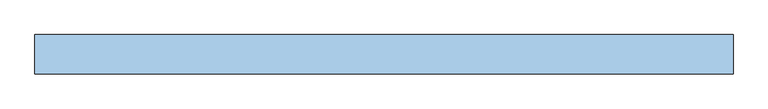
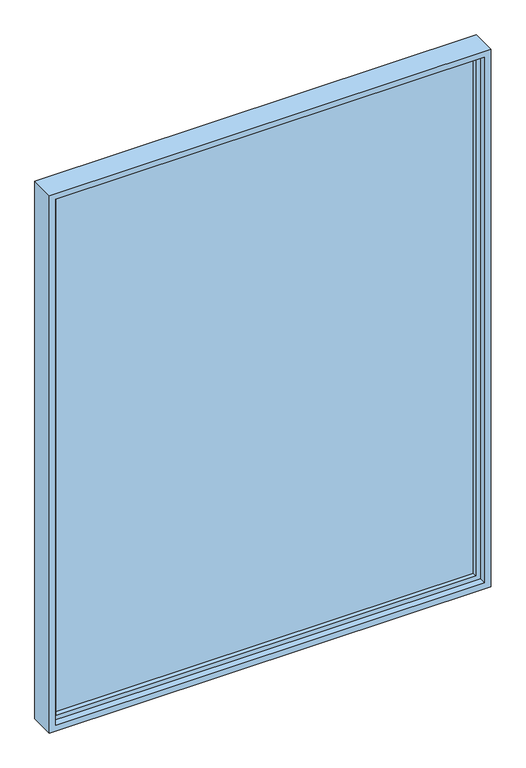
"""IFC4 building model written with IfcOpenShell, lengths in millimetres: window geometry, WD000-창 : WD000-창 2800x3600."""

from ifc_helpers import new_model, si_unit, frame, origin, place, context, project, spatial, polyline, outline, extrude, source, transform, mapped, element, save


def window_3f7671e2(model_context):
    return source(origin(), model_context, "Body", "SweptSolid", [
        extrude(outline(polyline([(1330.0, 6.0), (1330.0, -6.0), (-1330.0, -6.0), (-1330.0, 6.0), (1330.0, 6.0)])), frame((0.0, 0.0, 870.0), z_axis=(0.0, 0.0, 1.0), x_axis=(1.0, 0.0, 0.0)), (0.0, 0.0, 1.0), 3460.0),
        extrude(outline(polyline([(4360.0, -1360.0), (840.0, -1360.0), (840.0, 1360.0), (4360.0, 1360.0), (4360.0, -1360.0)]), holes=[polyline([(4330.0, 1330.0), (870.0, 1330.0), (870.0, -1330.0), (4330.0, -1330.0), (4330.0, 1330.0)])]), frame((0.0, -35.0, 0.0), z_axis=(0.0, 1.0, 0.0), x_axis=(0.0, 0.0, 1.0)), (0.0, 0.0, 1.0), 70.0),
        extrude(outline(polyline([(4400.0, 1400.0), (4400.0, -1400.0), (800.0, -1400.0), (800.0, 1400.0), (4400.0, 1400.0)]), holes=[polyline([(4360.0, 1360.0), (840.0, 1360.0), (840.0, -1360.0), (4360.0, -1360.0), (4360.0, 1360.0)])]), frame((0.0, -78.6430223, 0.0), z_axis=(0.0, 1.0, 0.0), x_axis=(0.0, 0.0, 1.0)), (0.0, 0.0, 1.0), 157.2860446),
    ])


if __name__ == "__main__":
    model = new_model("IFC4")
    model_context = context("Model", 3, world=origin())
    ifc_project = project(units=[si_unit("LENGTHUNIT", "METRE", prefix="MILLI")], contexts=[model_context])
    site = spatial("IfcSite", under=ifc_project)
    building = spatial("IfcBuilding", under=site)
    placement = place(None, origin())
    window_shape = window_3f7671e2(model_context)
    element("IfcWindow", 1, ObjectType="WD000-창 : WD000-창 2800x3600", at=placement, inside=building, context=model_context, shape_type="MappedRepresentation", body=[
        mapped(window_shape, transform((0.0, 0.0, 0.0), x_axis=(1.0, 0.0, 0.0), y_axis=(0.0, 1.0, 0.0), z_axis=(0.0, 0.0, 1.0))),
    ])
    save(model, "model.ifc")
